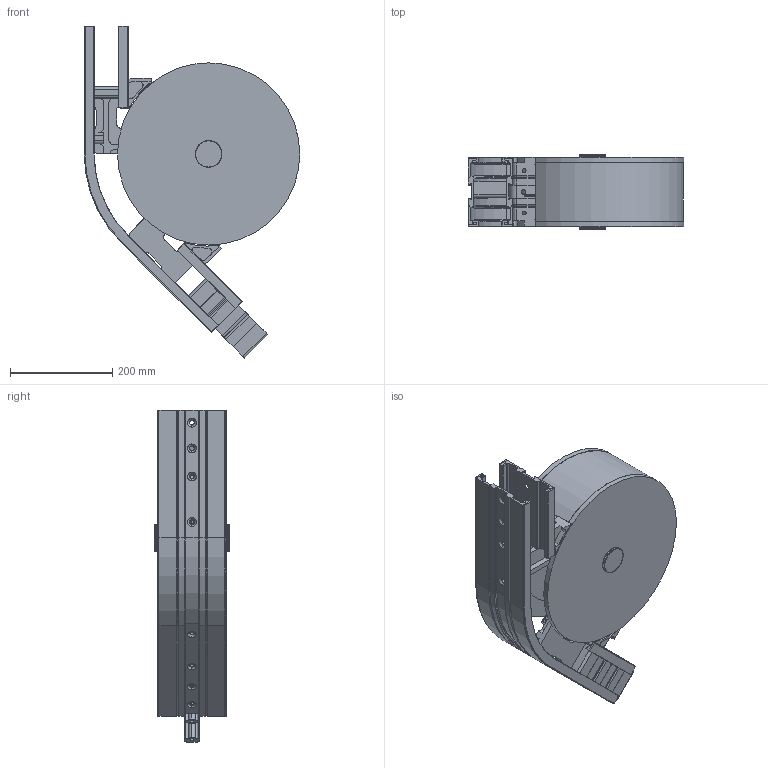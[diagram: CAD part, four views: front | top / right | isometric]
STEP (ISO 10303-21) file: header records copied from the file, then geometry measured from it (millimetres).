
FILE_DESCRIPTION (( 'STEP AP203' ), '1' );
FILE_NAME ('R2C200-45.STEP', '2008-12-02T09:31:04', ( 'faber' ), ( '' ), 'SwSTEP 2.0', 'SolidWorks 2008', '' );
FILE_SCHEMA (( 'CONFIG_CONTROL_DESIGN' ));
Products named in the file (1): R2C200-45
Bounding box: 421 x 145.2 x 648.63 mm (x, y, z)
Surface area: 1231053.8 mm2 (no closed solid volume)
Topology: 0 solids, 177 shells, 858 faces, 3434 edges, 2689 vertices
Faces by surface type: plane 476, cylinder 256, torus 85, cone 28, bspline 13
Entity records: 40905 total; most frequent: CARTESIAN_POINT 13382, DIRECTION 5556, ORIENTED_EDGE 4831, EDGE_CURVE 3434, VERTEX_POINT 2689, AXIS2_PLACEMENT_3D 1900, LINE 1756, VECTOR 1756
